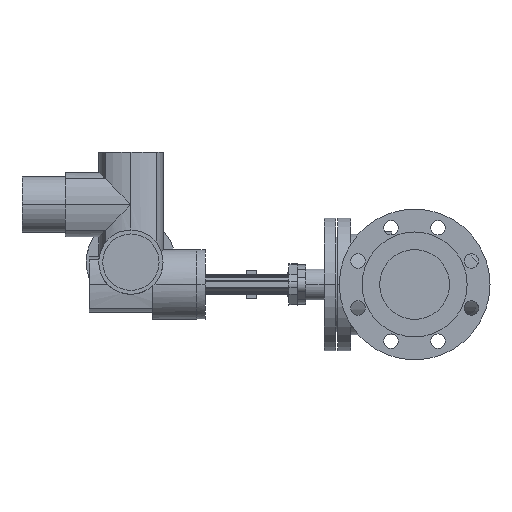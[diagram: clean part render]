
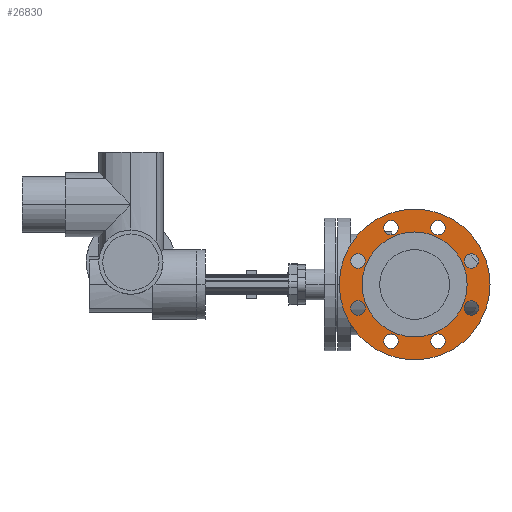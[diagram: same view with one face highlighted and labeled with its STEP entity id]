
A CAD part, left-side view. The second image highlights one B-rep face of the part: STEP entity #26830.
In plain terms, the highlighted planar face has unit normal (-1, 0, 0).
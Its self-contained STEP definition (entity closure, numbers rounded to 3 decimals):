
#10130=CARTESIAN_POINT('',(5.,0.,-135.));
#10140=VERTEX_POINT('',#10130);
#10300=CARTESIAN_POINT('',(5.,0.,135.));
#10310=VERTEX_POINT('',#10300);
#10340=CARTESIAN_POINT('',(5.,0.,0.));
#10350=DIRECTION('',(1.,0.,0.));
#10360=DIRECTION('',(0.,0.,-1.));
#10370=AXIS2_PLACEMENT_3D('',#10340,#10350,#10360);
#10380=CIRCLE('',#10370,135.);
#10390=EDGE_CURVE('',#10140,#10310,#10380,.T.);
#10550=CARTESIAN_POINT('',(5.,42.095,-88.627));
#10560=VERTEX_POINT('',#10550);
#10720=CARTESIAN_POINT('',(5.,42.095,-114.627));
#10730=VERTEX_POINT('',#10720);
#10760=CARTESIAN_POINT('',(5.,42.095,-101.627));
#10770=DIRECTION('',(-1.,0.,0.));
#10780=DIRECTION('',(0.,0.,-1.));
#10790=AXIS2_PLACEMENT_3D('',#10760,#10770,#10780);
#10800=CIRCLE('',#10790,13.);
#10810=EDGE_CURVE('',#10560,#10730,#10800,.T.);
#10970=CARTESIAN_POINT('',(5.,-42.095,-114.627));
#10980=VERTEX_POINT('',#10970);
#11140=CARTESIAN_POINT('',(5.,-42.095,-88.627));
#11150=VERTEX_POINT('',#11140);
#11180=CARTESIAN_POINT('',(5.,-42.095,-101.627));
#11190=DIRECTION('',(-1.,0.,0.));
#11200=DIRECTION('',(0.,0.,-1.));
#11210=AXIS2_PLACEMENT_3D('',#11180,#11190,#11200);
#11220=CIRCLE('',#11210,13.);
#11230=EDGE_CURVE('',#10980,#11150,#11220,.T.);
#11390=CARTESIAN_POINT('',(5.,101.627,-55.095));
#11400=VERTEX_POINT('',#11390);
#11560=CARTESIAN_POINT('',(5.,101.627,-29.095));
#11570=VERTEX_POINT('',#11560);
#11600=CARTESIAN_POINT('',(5.,101.627,-42.095));
#11610=DIRECTION('',(-1.,0.,0.));
#11620=DIRECTION('',(0.,0.,-1.));
#11630=AXIS2_PLACEMENT_3D('',#11600,#11610,#11620);
#11640=CIRCLE('',#11630,13.);
#11650=EDGE_CURVE('',#11400,#11570,#11640,.T.);
#11810=CARTESIAN_POINT('',(5.,-101.627,-29.095));
#11820=VERTEX_POINT('',#11810);
#11980=CARTESIAN_POINT('',(5.,-101.627,-55.095));
#11990=VERTEX_POINT('',#11980);
#12020=CARTESIAN_POINT('',(5.,-101.627,-42.095));
#12030=DIRECTION('',(-1.,0.,0.));
#12040=DIRECTION('',(0.,0.,-1.));
#12050=AXIS2_PLACEMENT_3D('',#12020,#12030,#12040);
#12060=CIRCLE('',#12050,13.);
#12070=EDGE_CURVE('',#11820,#11990,#12060,.T.);
#12230=CARTESIAN_POINT('',(5.,101.627,29.095));
#12240=VERTEX_POINT('',#12230);
#12400=CARTESIAN_POINT('',(5.,101.627,55.095));
#12410=VERTEX_POINT('',#12400);
#12440=CARTESIAN_POINT('',(5.,101.627,42.095));
#12450=DIRECTION('',(-1.,0.,0.));
#12460=DIRECTION('',(0.,0.,-1.));
#12470=AXIS2_PLACEMENT_3D('',#12440,#12450,#12460);
#12480=CIRCLE('',#12470,13.);
#12490=EDGE_CURVE('',#12240,#12410,#12480,.T.);
#12650=CARTESIAN_POINT('',(5.,-101.627,55.095));
#12660=VERTEX_POINT('',#12650);
#12820=CARTESIAN_POINT('',(5.,-101.627,29.095));
#12830=VERTEX_POINT('',#12820);
#12860=CARTESIAN_POINT('',(5.,-101.627,42.095));
#12870=DIRECTION('',(-1.,0.,0.));
#12880=DIRECTION('',(0.,0.,-1.));
#12890=AXIS2_PLACEMENT_3D('',#12860,#12870,#12880);
#12900=CIRCLE('',#12890,13.);
#12910=EDGE_CURVE('',#12660,#12830,#12900,.T.);
#13070=CARTESIAN_POINT('',(5.,42.095,114.627));
#13080=VERTEX_POINT('',#13070);
#13240=CARTESIAN_POINT('',(5.,42.095,88.627));
#13250=VERTEX_POINT('',#13240);
#13280=CARTESIAN_POINT('',(5.,42.095,101.627));
#13290=DIRECTION('',(-1.,0.,0.));
#13300=DIRECTION('',(0.,0.,-1.));
#13310=AXIS2_PLACEMENT_3D('',#13280,#13290,#13300);
#13320=CIRCLE('',#13310,13.);
#13330=EDGE_CURVE('',#13080,#13250,#13320,.T.);
#13490=CARTESIAN_POINT('',(5.,-42.095,88.627));
#13500=VERTEX_POINT('',#13490);
#13660=CARTESIAN_POINT('',(5.,-42.095,114.627));
#13670=VERTEX_POINT('',#13660);
#13700=CARTESIAN_POINT('',(5.,-42.095,101.627));
#13710=DIRECTION('',(-1.,0.,0.));
#13720=DIRECTION('',(0.,0.,-1.));
#13730=AXIS2_PLACEMENT_3D('',#13700,#13710,#13720);
#13740=CIRCLE('',#13730,13.);
#13750=EDGE_CURVE('',#13500,#13670,#13740,.T.);
#13910=CARTESIAN_POINT('',(5.,94.,0.));
#13920=VERTEX_POINT('',#13910);
#14080=CARTESIAN_POINT('',(5.,-94.,0.));
#14090=VERTEX_POINT('',#14080);
#14120=CARTESIAN_POINT('',(5.,0.,0.));
#14130=DIRECTION('',(-1.,0.,0.));
#14140=DIRECTION('',(0.,1.,0.));
#14150=AXIS2_PLACEMENT_3D('',#14120,#14130,#14140);
#14160=CIRCLE('',#14150,94.);
#14170=EDGE_CURVE('',#13920,#14090,#14160,.T.);
#26280=CARTESIAN_POINT('',(5.,114.5,0.));
#26290=DIRECTION('',(1.,0.,0.));
#26300=DIRECTION('',(0.,-1.,0.));
#26310=AXIS2_PLACEMENT_3D('',#26280,#26290,#26300);
#26320=PLANE('',#26310);
#26330=EDGE_CURVE('',#14090,#13920,#14160,.T.);
#26340=ORIENTED_EDGE('',*,*,#26330,.F.);
#26350=ORIENTED_EDGE('',*,*,#14170,.F.);
#26360=EDGE_LOOP('',(#26350,#26340));
#26370=FACE_BOUND('',#26360,.T.);
#26380=EDGE_CURVE('',#10310,#10140,#10380,.T.);
#26390=ORIENTED_EDGE('',*,*,#26380,.F.);
#26400=ORIENTED_EDGE('',*,*,#10390,.F.);
#26410=EDGE_LOOP('',(#26400,#26390));
#26420=FACE_OUTER_BOUND('',#26410,.T.);
#26430=EDGE_CURVE('',#10730,#10560,#10800,.T.);
#26440=ORIENTED_EDGE('',*,*,#26430,.F.);
#26450=ORIENTED_EDGE('',*,*,#10810,.F.);
#26460=EDGE_LOOP('',(#26450,#26440));
#26470=FACE_BOUND('',#26460,.T.);
#26480=EDGE_CURVE('',#11150,#10980,#11220,.T.);
#26490=ORIENTED_EDGE('',*,*,#26480,.F.);
#26500=ORIENTED_EDGE('',*,*,#11230,.F.);
#26510=EDGE_LOOP('',(#26500,#26490));
#26520=FACE_BOUND('',#26510,.T.);
#26530=EDGE_CURVE('',#11570,#11400,#11640,.T.);
#26540=ORIENTED_EDGE('',*,*,#26530,.F.);
#26550=ORIENTED_EDGE('',*,*,#11650,.F.);
#26560=EDGE_LOOP('',(#26550,#26540));
#26570=FACE_BOUND('',#26560,.T.);
#26580=EDGE_CURVE('',#11990,#11820,#12060,.T.);
#26590=ORIENTED_EDGE('',*,*,#26580,.F.);
#26600=ORIENTED_EDGE('',*,*,#12070,.F.);
#26610=EDGE_LOOP('',(#26600,#26590));
#26620=FACE_BOUND('',#26610,.T.);
#26630=EDGE_CURVE('',#12410,#12240,#12480,.T.);
#26640=ORIENTED_EDGE('',*,*,#26630,.F.);
#26650=ORIENTED_EDGE('',*,*,#12490,.F.);
#26660=EDGE_LOOP('',(#26650,#26640));
#26670=FACE_BOUND('',#26660,.T.);
#26680=EDGE_CURVE('',#12830,#12660,#12900,.T.);
#26690=ORIENTED_EDGE('',*,*,#26680,.F.);
#26700=ORIENTED_EDGE('',*,*,#12910,.F.);
#26710=EDGE_LOOP('',(#26700,#26690));
#26720=FACE_BOUND('',#26710,.T.);
#26730=EDGE_CURVE('',#13250,#13080,#13320,.T.);
#26740=ORIENTED_EDGE('',*,*,#26730,.F.);
#26750=ORIENTED_EDGE('',*,*,#13330,.F.);
#26760=EDGE_LOOP('',(#26750,#26740));
#26770=FACE_BOUND('',#26760,.T.);
#26780=EDGE_CURVE('',#13670,#13500,#13740,.T.);
#26790=ORIENTED_EDGE('',*,*,#26780,.F.);
#26800=ORIENTED_EDGE('',*,*,#13750,.F.);
#26810=EDGE_LOOP('',(#26800,#26790));
#26820=FACE_BOUND('',#26810,.T.);
#26830=ADVANCED_FACE('',(#26370,#26420,#26470,#26520,#26570,#26620,
#26670,#26720,#26770,#26820),#26320,.F.);
